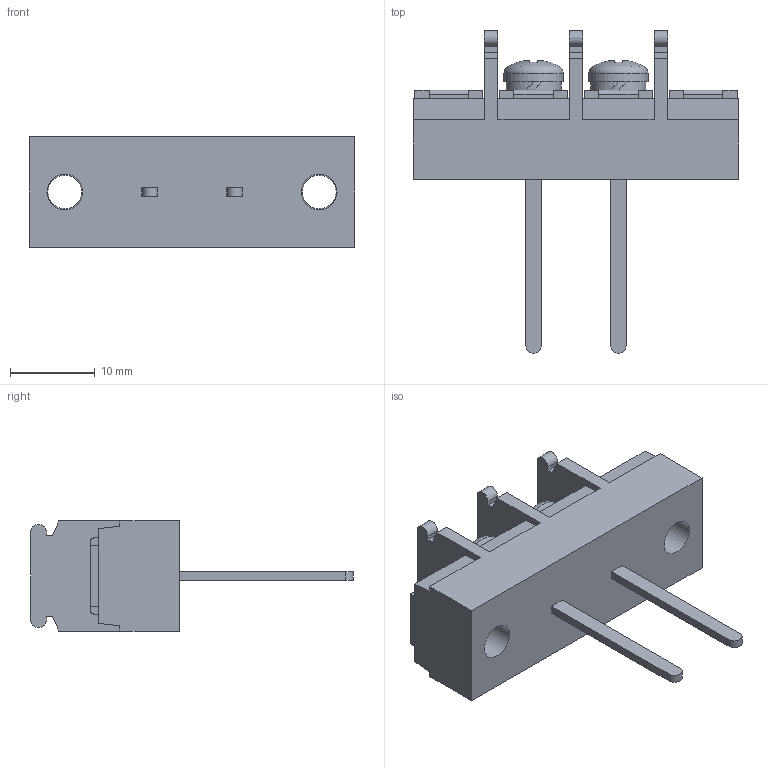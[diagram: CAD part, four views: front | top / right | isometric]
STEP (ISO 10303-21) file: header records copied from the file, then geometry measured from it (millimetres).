
FILE_DESCRIPTION(/* description */ ('Alibre Inc.'),/* implementation_level */ '2;1');
FILE_NAME(/* name */ 'export0',/* time_stamp */ '2015-10-17T19:29:45+09:00',/* author */ (''),/* organization */ (''),/* preprocessor_version */ 'ST-DEVELOPER v14',/* originating_system */ 'Alibre',/* authorisation */ '');
FILE_SCHEMA (('CONFIG_CONTROL_DESIGN'));
Length unit declared in the file: centimetre
Products named in the file (1): ID_1
Bounding box: 38.4 x 38 x 13 mm (x, y, z)
Volume: 5324.5 mm3; surface area: 3488.2 mm2
Topology: 1 solids, 17 shells, 566 faces, 1502 edges, 1000 vertices
Faces by surface type: plane 422, bspline 104, cylinder 26, cone 8, torus 4, sphere 2
Full cylindrical faces by diameter (mm): 4 x4, 4.2 x2, 6.5 x2, 7 x2
Entity records: 16995 total; most frequent: CARTESIAN_POINT 4027, ORIENTED_EDGE 2964, DIRECTION 1858, EDGE_CURVE 1482, VECTOR 1150, LINE 1150, VERTEX_POINT 992, EDGE_LOOP 624
